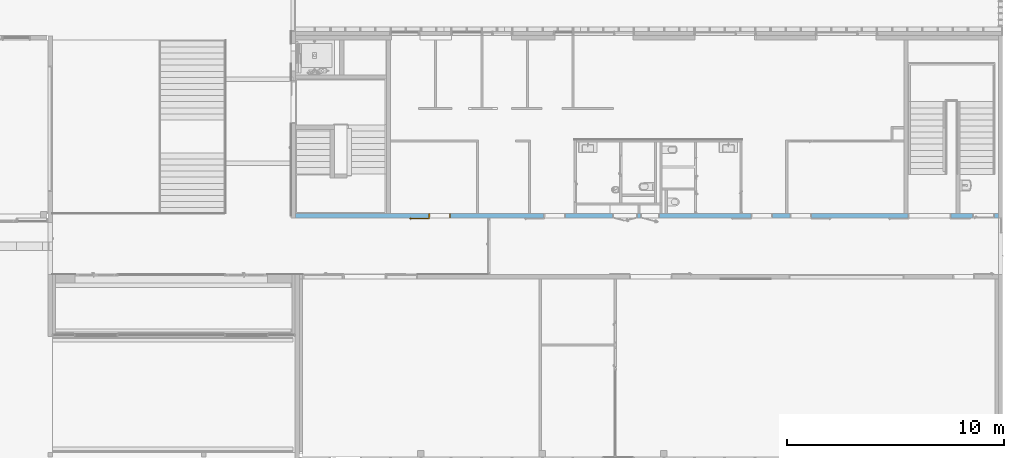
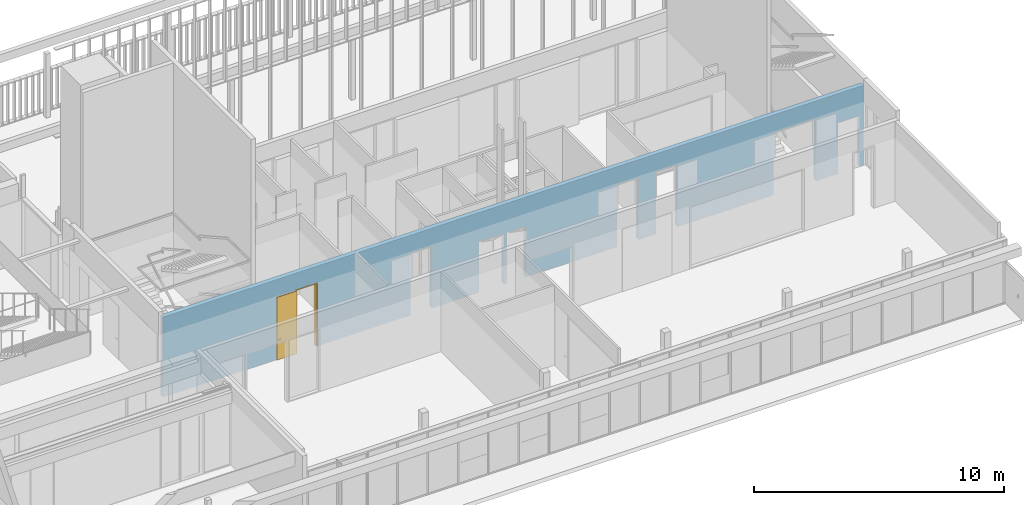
# One storey, part 225 of 240: 1 door, 8 openings, plus 1 element that does not belong to this part.
"""IFC2X3 building model written with IfcOpenShell, lengths in centimetres."""

from ifc_helpers import new_model, entity, si_unit, converted_unit, derived_unit, direction, frame, frame_2d, origin, place, context, subcontext, project, spatial, polyline, rectangle, extrude, clip, bounded_halfspace, faceted_brep, source, transform, mapped, material, material_list, layer, layer_set, layer_usage, type_object, type_shapes, element, fill, save


model = new_model("IFC2X3")

# Units and contexts
model_context = context("Model", 3, precision=0.001, world=origin(), true_north=direction((6.12303176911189e-17, 1.0)))
body_context = subcontext(model_context, "Body", "Model", "MODEL_VIEW")
ifc_project = project(units=[si_unit("LENGTHUNIT", "METRE", prefix="CENTI"), si_unit("AREAUNIT", "SQUARE_METRE"), si_unit("VOLUMEUNIT", "CUBIC_METRE"), converted_unit("PLANEANGLEUNIT", "DEGREE", entity("IfcRatioMeasure", 0.0174532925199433), si_unit("PLANEANGLEUNIT", "RADIAN"), dimensions=[0, 0, 0, 0, 0, 0, 0]), si_unit("MASSUNIT", "GRAM", prefix="KILO"), derived_unit("MASSDENSITYUNIT", [(si_unit("MASSUNIT", "GRAM", prefix="KILO"), 1), (si_unit("LENGTHUNIT", "METRE"), -3)]), si_unit("TIMEUNIT", "SECOND"), si_unit("FREQUENCYUNIT", "HERTZ"), si_unit("THERMODYNAMICTEMPERATUREUNIT", "DEGREE_CELSIUS"), derived_unit("THERMALTRANSMITTANCEUNIT", [(si_unit("MASSUNIT", "GRAM", prefix="KILO"), 1), (si_unit("THERMODYNAMICTEMPERATUREUNIT", "KELVIN"), -1), (si_unit("TIMEUNIT", "SECOND"), -3)]), derived_unit("VOLUMETRICFLOWRATEUNIT", [(si_unit("LENGTHUNIT", "METRE"), 3), (si_unit("TIMEUNIT", "SECOND"), -1)]), si_unit("ELECTRICCURRENTUNIT", "AMPERE"), si_unit("ELECTRICVOLTAGEUNIT", "VOLT"), si_unit("POWERUNIT", "WATT"), si_unit("FORCEUNIT", "NEWTON", prefix="KILO"), si_unit("ILLUMINANCEUNIT", "LUX"), si_unit("LUMINOUSFLUXUNIT", "LUMEN"), si_unit("LUMINOUSINTENSITYUNIT", "CANDELA"), derived_unit("USERDEFINED", [(si_unit("MASSUNIT", "GRAM", prefix="KILO"), -1), (si_unit("LENGTHUNIT", "METRE"), -2), (si_unit("TIMEUNIT", "SECOND"), 3), (si_unit("LUMINOUSFLUXUNIT", "LUMEN"), 1)]), derived_unit("LINEARVELOCITYUNIT", [(si_unit("LENGTHUNIT", "METRE"), 1), (si_unit("TIMEUNIT", "SECOND"), -1)]), si_unit("PRESSUREUNIT", "PASCAL"), derived_unit("USERDEFINED", [(si_unit("LENGTHUNIT", "METRE"), -2), (si_unit("MASSUNIT", "GRAM", prefix="KILO"), 1), (si_unit("TIMEUNIT", "SECOND"), -2)])], contexts=[model_context])

# Site, building, storey
site_placement = place(None, frame((-2781.94577612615, 7442.24238424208, 0.0)))
site = spatial("IfcSite", under=ifc_project, at=site_placement, Name="Default", CompositionType="ELEMENT")
building_placement = place(site_placement, origin())
building = spatial("IfcBuilding", under=site, at=building_placement, CompositionType="ELEMENT")
storey_placement = place(building_placement, origin())
storey = spatial("IfcBuildingStorey", under=building, at=storey_placement, Name="N00 - COO", CompositionType="ELEMENT", Elevation=0.0)

# Wall, openings, door
ifc_material_1 = material(Name="01 - Maçonnerie")
ifc_layer = layer(ifc_material_1, 20.0)
ifc_layer_set = layer_set([ifc_layer], Name="Mur de base:04 - Structure - béton - 20cm")
ifc_layer_usage = layer_usage(ifc_layer_set, "AXIS2", "NEGATIVE", 10.0)
wall_type = type_object("IfcWallType", Name="Mur de base:04 - Structure - béton - 20cm", PredefinedType="STANDARD", material=ifc_layer_set)
wall_placement = place(building_placement, frame((-3647.99987968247, -1920.07903364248, 0.0)))
wall = element("IfcWallStandardCase", 1, at=wall_placement, inside=storey, type_object=wall_type, material=ifc_layer_usage, Name="Mur de base:04 - Structure - béton - 20cm", ObjectType="Mur de base:04 - Structure - béton - 20cm", context=body_context, shape_type="Clipping", body=[
    clip(extrude(rectangle(XDim=3237.99999684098, YDim=19.9999999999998, at=frame_2d((1618.99999842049, -2.66453525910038e-15), x_axis=(-1.0, 0.0))), origin(), (0.0, 0.0, 1.0), 391.0), bounded_halfspace(frame((0.0, -10.0, 391.0), z_axis=(0.0, 0.0, -1.0), x_axis=(0.0, 1.0, 0.0)), True, frame((0.0, -10.0, 391.0)), polyline([(0.0, 0.0), (3238.0, 0.0), (3238.0, 20.0), (3062.69999684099, 20.0), (3042.69999684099, 20.0), (2268.49999684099, 20.0), (2258.49999684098, 20.0), (2058.49999684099, 20.0), (2048.49999684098, 20.0), (1848.49999684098, 20.0), (1838.49999684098, 20.0), (1713.49999684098, 20.0), (1703.49999684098, 20.0), (1293.99999684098, 20.0), (1283.99999684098, 20.0), (1083.99999684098, 20.0), (1073.99999684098, 20.0), (843.999996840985, 20.0), (833.999996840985, 20.0), (438.699996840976, 20.0), (0.0, 20.0), (0.0, 0.0)]))),
])
opening_1_placement = place(wall_placement, frame((3019.69999684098, 10.0, 0.0)))
element("IfcOpeningElement", 2, at=opening_1_placement, cuts=wall, Name="Int. Double:PP (1.90m x 3.00m):1", ObjectType="Opening", context=body_context, shape_type="SweptSolid", body=[
    extrude(rectangle(XDim=304.500000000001, YDim=197.0, at=frame_2d((152.250000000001, 98.5), x_axis=(1.0, 0.0))), frame((0.0, 0.0, 0.0), z_axis=(0.0, -1.0, 0.0), x_axis=(0.0, 0.0, 1.0)), (0.0, 0.0, 1.0), 20.0),
])
opening_2_placement = place(wall_placement, frame((1243.99999684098, 10.0, 0.0)))
element("IfcOpeningElement", 3, at=opening_2_placement, cuts=wall, Name="Int. Simple:PV (0.93m x 3.00m):1", ObjectType="Opening", context=body_context, shape_type="SweptSolid", body=[
    extrude(rectangle(XDim=304.500000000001, YDim=99.9999999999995, at=frame_2d((152.250000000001, 49.9999999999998), x_axis=(1.0, 0.0))), frame((0.0, 0.0, 0.0), z_axis=(0.0, -1.0, 0.0), x_axis=(0.0, 0.0, 1.0)), (0.0, 0.0, 1.0), 20.0),
])
opening_3_placement = place(wall_placement, frame((2198.49999684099, 10.0, 0.0)))
element("IfcOpeningElement", 4, at=opening_3_placement, cuts=wall, Name="Int. Simple:PV (0.93m x 3.00m):1", ObjectType="Opening", context=body_context, shape_type="SweptSolid", body=[
    extrude(rectangle(XDim=304.500000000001, YDim=99.9999999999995, at=frame_2d((152.250000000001, 49.9999999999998), x_axis=(1.0, 0.0))), frame((0.0, 0.0, 0.0), z_axis=(0.0, -1.0, 0.0), x_axis=(0.0, 0.0, 1.0)), (0.0, 0.0, 1.0), 20.0),
])
opening_4_placement = place(wall_placement, frame((713.999996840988, 10.0, 0.0)))
opening_4 = element("IfcOpeningElement", 5, at=opening_4_placement, cuts=wall, Name="Int. Simple:PP (0.93m x 3.06m):1", ObjectType="Opening", context=body_context, shape_type="SweptSolid", body=[
    extrude(rectangle(XDim=309.500000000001, YDim=99.9999999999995, at=frame_2d((154.750000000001, 49.9999999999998), x_axis=(1.0, 0.0))), frame((0.0, 0.0, 0.0), z_axis=(0.0, -1.0, 0.0), x_axis=(0.0, 0.0, 1.0)), (0.0, 0.0, 1.0), 20.0),
])
opening_5_placement = place(wall_placement, frame((1576.99999684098, 10.0, 0.0)))
element("IfcOpeningElement", 6, at=opening_5_placement, cuts=wall, Name="Int. Double:PP Placard (1.10m x 2.50m):1", ObjectType="Opening", context=body_context, shape_type="SweptSolid", body=[
    extrude(rectangle(XDim=248.500000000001, YDim=117.0, at=frame_2d((124.250000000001, 58.5000000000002), x_axis=(1.0, 0.0))), frame((0.0, 0.0, 0.0), z_axis=(0.0, -1.0, 0.0), x_axis=(0.0, 0.0, 1.0)), (0.0, 0.0, 1.0), 20.0),
])
opening_6_placement = place(wall_placement, frame((1677.0, 10.0, 0.0)))
element("IfcOpeningElement", 7, at=opening_6_placement, cuts=wall, Name="Int. Simple:PP Placard (0.80m x 2.50m):1", ObjectType="Opening", context=body_context, shape_type="SweptSolid", body=[
    extrude(rectangle(XDim=248.500000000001, YDim=86.9999999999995, at=frame_2d((124.250000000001, 43.4999999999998), x_axis=(1.0, 0.0))), frame((0.0, 0.0, 0.0), z_axis=(0.0, -1.0, 0.0), x_axis=(0.0, 0.0, 1.0)), (0.0, 0.0, 1.0), 20.0),
])
opening_7_placement = place(wall_placement, frame((2378.49999684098, 10.0, 0.0)))
element("IfcOpeningElement", 8, at=opening_7_placement, cuts=wall, Name="Int. Simple:PV (0.93m x 3.00m):1", ObjectType="Opening", context=body_context, shape_type="SweptSolid", body=[
    extrude(rectangle(XDim=304.500000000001, YDim=99.9999999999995, at=frame_2d((152.250000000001, 49.9999999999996), x_axis=(1.0, 0.0))), frame((0.0, 0.0, 0.0), z_axis=(0.0, -1.0, 0.0), x_axis=(0.0, 0.0, 1.0)), (0.0, 0.0, 1.0), 20.0),
])
opening_8_placement = place(wall_placement, frame((3220.0, 10.0, 0.0)))
element("IfcOpeningElement", 9, at=opening_8_placement, cuts=wall, Name="Int. Simple:PP simple (0.93m x 2.50m):1", ObjectType="Opening", context=body_context, shape_type="SweptSolid", body=[
    extrude(rectangle(XDim=248.500000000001, YDim=99.9999999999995, at=frame_2d((124.250000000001, 49.9999999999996), x_axis=(1.0, 0.0))), frame((0.0, 0.0, 0.0), z_axis=(0.0, -1.0, 0.0), x_axis=(0.0, 0.0, 1.0)), (0.0, 0.0, 1.0), 20.0),
])
ifc_material_2 = material(Name="Finition Peinture - Blanc satiné")
ifc_material_3 = material(Name="Bois - Panneau de porte")
ifc_material_4 = material(Name="Bois - Cadre de porte")
ifc_material_list_1 = material_list([ifc_material_2, ifc_material_3, ifc_material_4])
ifc_material_list_2 = material_list([ifc_material_2, ifc_material_3, ifc_material_4])
door_style = type_object("IfcDoorStyle", Name="PP (0.93m x 3.06m)", ConstructionType="NOTDEFINED", OperationType="SINGLE_SWING_RIGHT", ParameterTakesPrecedence=False, Sizeable=False, material=ifc_material_list_2)
shared_shape = source(origin(), body_context, "Body", "Brep", [
    faceted_brep([(-78.4999999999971, 0.499999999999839, 87.0), (-78.4999999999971, 0.499999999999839, 108.0), (-77.5352761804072, 0.499999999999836, 108.399601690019), (-76.4999999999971, 0.49999999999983, 108.535898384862), (-75.4647238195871, 0.499999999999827, 108.399601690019), (-74.4999999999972, 0.499999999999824, 108.0), (-74.499999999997, 0.499999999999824, 87.0), (-75.4647238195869, 0.499999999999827, 86.6003983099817), (-76.499999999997, 0.49999999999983, 86.464101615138), (-77.5352761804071, 0.499999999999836, 86.6003983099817), (-78.4999999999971, 0.0, 108.0), (-78.499999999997, 0.0, 87.0), (-77.5352761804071, 0.0, 86.6003983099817), (-76.499999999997, 0.0, 86.464101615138), (-75.464723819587, 0.0, 86.6003983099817), (-74.4999999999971, 0.0, 87.0), (-74.4999999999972, 0.0, 108.0), (-75.4647238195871, 0.0, 108.399601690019), (-76.4999999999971, 0.0, 108.535898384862), (-77.5352761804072, 0.0, 108.399601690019)], [[[0, 1, 2, 3, 4, 5, 6, 7, 8, 9]], [[10, 11, 12, 13, 14, 15, 16, 17, 18, 19]], [[9, 12, 11, 0]], [[8, 13, 12, 9]], [[7, 14, 13, 8]], [[7, 6, 15, 14]], [[15, 6, 5, 16]], [[4, 17, 16, 5]], [[3, 18, 17, 4]], [[2, 19, 18, 3]], [[2, 1, 10, 19]], [[11, 10, 1, 0]]]),
    faceted_brep([(-78.4999999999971, -4.0, 87.0), (-78.4999999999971, -4.0, 108.0), (-77.5352761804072, -4.0, 108.399601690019), (-76.4999999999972, -4.0, 108.535898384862), (-75.4647238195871, -4.0, 108.399601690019), (-74.4999999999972, -4.0, 108.0), (-74.4999999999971, -4.0, 87.0), (-75.464723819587, -4.0, 86.6003983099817), (-76.499999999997, -4.0, 86.464101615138), (-77.5352761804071, -4.0, 86.6003983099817), (-76.4999999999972, -4.50000000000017, 108.535898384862), (-77.5352761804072, -4.50000000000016, 108.399601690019), (-78.4999999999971, -4.50000000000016, 108.0), (-78.499999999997, -4.50000000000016, 87.0), (-77.5352761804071, -4.50000000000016, 86.6003983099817), (-76.499999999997, -4.50000000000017, 86.464101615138), (-75.464723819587, -4.50000000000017, 86.6003983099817), (-74.4999999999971, -4.50000000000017, 87.0), (-74.4999999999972, -4.50000000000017, 108.0), (-75.4647238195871, -4.50000000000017, 108.399601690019)], [[[0, 1, 2, 3, 4, 5, 6, 7, 8, 9]], [[10, 11, 12, 13, 14, 15, 16, 17, 18, 19]], [[4, 19, 18, 5]], [[3, 10, 19, 4]], [[2, 11, 10, 3]], [[2, 1, 12, 11]], [[13, 12, 1, 0]], [[9, 14, 13, 0]], [[8, 15, 14, 9]], [[7, 16, 15, 8]], [[7, 6, 17, 16]], [[17, 6, 5, 18]]]),
    faceted_brep([(-76.2974701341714, 0.499999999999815, 100.778044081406), (-76.7025298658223, 0.499999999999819, 100.778044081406), (-77.0999999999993, 0.499999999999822, 100.699999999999), (-77.1000000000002, 0.499999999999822, 99.2999999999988), (-76.7025298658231, 0.499999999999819, 99.221955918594), (-76.2974701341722, 0.499999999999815, 99.2219559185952), (-75.8999999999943, 0.499999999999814, 99.3000000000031), (-75.8999999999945, 0.499999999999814, 100.7), (-76.7025298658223, 3.10045754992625, 100.778044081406), (-77.0999999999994, 3.26509507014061, 100.7), (-76.2974701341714, 2.93267631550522, 100.778044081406), (-74.929860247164, 4.30028620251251, 100.778044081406), (-75.097641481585, 4.70534593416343, 100.778044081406), (-75.8999999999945, 2.76803879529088, 100.7), (-75.8999999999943, 2.76803879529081, 99.3000000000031), (-76.2974701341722, 2.93267631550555, 99.2219559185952), (-76.7025298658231, 3.10045754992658, 99.221955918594), (-75.0976414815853, 4.70534593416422, 99.221955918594), (-74.9298602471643, 4.3002862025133, 99.2219559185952), (-77.1000000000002, 3.26509507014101, 99.2999999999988), (-75.2622790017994, 5.10281606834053, 100.7), (-74.7652227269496, 3.9028160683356, 100.7), (-74.7652227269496, 3.90281606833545, 99.3000000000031), (-75.2622790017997, 5.10281606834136, 99.2999999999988), (-66.4981359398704, 5.10281606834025, 100.7), (-66.4981359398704, 4.70534593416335, 100.778044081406), (-66.4981359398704, 4.30028620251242, 100.778044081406), (-66.4981359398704, 3.90281606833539, 100.699999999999), (-66.4981359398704, 3.90281606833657, 99.3000000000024), (-66.4981359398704, 4.30028620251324, 99.2219559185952), (-66.4981359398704, 4.70534593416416, 99.221955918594), (-66.4981359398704, 5.10281606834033, 99.2999999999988), (-70.7139980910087, 4.50281606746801, 100.78786867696), (-71.2692302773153, 5.10281606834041, 100.7), (-70.63167933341, 3.90281606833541, 100.7), (-70.6316793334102, 3.9028160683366, 99.3000000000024), (-70.7139981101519, 4.50281607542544, 99.2121313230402), (-71.2692310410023, 5.10281606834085, 99.2999999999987)], [[[0, 1, 2, 3, 4, 5, 6, 7]], [[2, 1, 8, 9]], [[1, 0, 10, 11, 12, 8]], [[0, 7, 13, 10]], [[14, 13, 7, 6]], [[5, 15, 14, 6]], [[5, 4, 16, 17, 18, 15]], [[3, 19, 16, 4]], [[9, 19, 3, 2]], [[9, 8, 12, 20]], [[10, 13, 21, 11]], [[22, 21, 13, 14]], [[14, 15, 18, 22]], [[16, 19, 23, 17]], [[20, 23, 19, 9]], [[24, 25, 26, 27, 28, 29, 30, 31]], [[32, 25, 33]], [[33, 25, 24]], [[33, 20, 12]], [[11, 34, 32]], [[34, 11, 21]], [[27, 26, 34]], [[32, 26, 25]], [[32, 34, 26]], [[32, 33, 12]], [[11, 32, 12]], [[21, 22, 35, 28, 27, 34]], [[36, 29, 35]], [[30, 36, 37]], [[18, 35, 22]], [[29, 28, 35]], [[30, 37, 31]], [[37, 17, 23]], [[36, 17, 37]], [[36, 18, 17]], [[36, 35, 18]], [[29, 36, 30]], [[23, 20, 33, 24, 31, 37]]]),
    faceted_brep([(-76.2974701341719, -4.50000000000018, 99.2219559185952), (-76.7025298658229, -4.50000000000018, 99.221955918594), (-77.099999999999, -4.50000000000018, 99.2999999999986), (-77.0999999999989, -4.50000000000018, 100.7), (-76.702529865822, -4.50000000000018, 100.778044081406), (-76.2974701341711, -4.50000000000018, 100.778044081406), (-75.8999999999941, -4.50000000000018, 100.7), (-75.8999999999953, -4.50000000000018, 99.3000000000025), (-75.8999999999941, -6.74852045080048, 100.7), (-75.8999999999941, -6.74852045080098, 99.3000000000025), (-76.2974701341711, -6.91315797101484, 100.778044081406), (-76.702529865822, -7.08093920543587, 100.778044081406), (-75.0838906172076, -8.69957845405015, 100.778044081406), (-74.9161093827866, -8.29451872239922, 100.778044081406), (-77.0999999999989, -7.2455767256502, 100.7), (-77.099999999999, -7.24557672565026, 99.2999999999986), (-76.7025298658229, -7.08093920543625, 99.221955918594), (-76.297470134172, -6.91315797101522, 99.2219559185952), (-74.916109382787, -8.29451872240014, 99.2219559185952), (-75.083890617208, -8.69957845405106, 99.221955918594), (-74.7514718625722, -7.89704858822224, 100.7), (-74.7514718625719, -7.8970485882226, 99.3000000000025), (-75.2485281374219, -9.09704858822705, 100.7), (-75.248528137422, -9.09704858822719, 99.2999999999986), (-66.4954216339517, -8.29451872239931, 100.778044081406), (-66.4954216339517, -8.69957845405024, 100.778044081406), (-66.4954216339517, -9.09704858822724, 100.7), (-66.4954216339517, -9.09704858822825, 99.2999999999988), (-66.4954216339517, -8.69957845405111, 99.221955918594), (-66.4954216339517, -8.29451872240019, 99.2219559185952), (-66.4954216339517, -7.8970485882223, 99.3000000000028), (-66.4954216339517, -7.89704858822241, 100.7), (-70.623446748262, -7.89704858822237, 100.7), (-70.6234479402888, -7.89704858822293, 99.3000000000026), (-70.7057655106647, -8.49704858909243, 100.78786867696), (-71.2554794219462, -9.09704858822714, 100.7), (-71.2554795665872, -9.09704858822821, 99.2999999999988), (-70.7057654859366, -8.49704858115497, 99.2121313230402)], [[[0, 1, 2, 3, 4, 5, 6, 7]], [[8, 9, 7, 6]], [[5, 10, 8, 6]], [[5, 4, 11, 12, 13, 10]], [[3, 14, 11, 4]], [[14, 3, 2, 15]], [[2, 1, 16, 15]], [[1, 0, 17, 18, 19, 16]], [[0, 7, 9, 17]], [[20, 21, 9, 8]], [[8, 10, 13, 20]], [[14, 22, 12, 11]], [[23, 22, 14, 15]], [[15, 16, 19, 23]], [[17, 9, 21, 18]], [[24, 25, 26, 27, 28, 29, 30, 31]], [[21, 20, 32, 31, 30, 33]], [[34, 24, 32]], [[25, 34, 35]], [[13, 32, 20]], [[24, 31, 32]], [[25, 35, 26]], [[35, 12, 22]], [[34, 12, 35]], [[34, 13, 12]], [[34, 32, 13]], [[24, 34, 25]], [[22, 23, 36, 27, 26, 35]], [[37, 28, 36]], [[36, 28, 27]], [[36, 23, 19]], [[18, 33, 37]], [[33, 18, 21]], [[30, 29, 33]], [[37, 29, 28]], [[37, 33, 29]], [[37, 36, 19]], [[18, 37, 19]]]),
    faceted_brep([(-82.4999999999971, -4.0, 306.0), (-82.4999999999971, -4.0, 0.0), (10.5000000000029, -4.0, 0.0), (10.5000000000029, -4.0, 306.0), (-82.4999999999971, 0.0, 306.0), (10.5000000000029, 0.0, 306.0), (10.5000000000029, 0.0, 0.0), (-82.4999999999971, 0.0, 0.0)], [[[0, 1, 2, 3]], [[4, 5, 6, 7]], [[3, 5, 4, 0]], [[2, 6, 5, 3]], [[1, 7, 6, 2]], [[0, 4, 7, 1]]]),
    faceted_brep([(107.0, 20.0, 0.0), (107.0, 0.0, 0.0), (108.500000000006, 0.0, 0.0), (108.500000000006, -0.500000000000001, 0.0), (103.500000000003, -0.500000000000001, 0.0), (103.500000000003, 4.0, 0.0), (102.0, 4.0, 0.0), (102.0, 20.5000000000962, 0.0), (108.500000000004, 20.5000000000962, 0.0), (108.500000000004, 20.0, 0.0), (108.500000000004, 20.0, 311.0), (5.50000000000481, 20.0, 311.0), (5.50000000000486, 20.0, 0.0), (7.0, 20.0, 0.0), (7.0, 20.0, 309.500000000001), (107.0, 20.0, 309.500000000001), (108.500000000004, 20.5000000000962, 311.0), (102.0, 20.5000000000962, 304.5), (12.0, 20.5000000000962, 304.5), (12.0, 20.5000000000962, 0.0), (5.50000000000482, 20.5000000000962, 0.0), (5.50000000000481, 20.5000000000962, 311.0), (102.0, 4.0, 304.5), (103.500000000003, 4.0, 306.0), (10.5000000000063, 4.0, 306.0), (10.5000000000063, 4.0, 0.0), (12.0, 4.0, 0.0), (12.0, 4.0, 304.5), (103.500000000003, -0.500000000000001, 306.0), (108.500000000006, -0.500000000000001, 311.0), (5.5000000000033, -0.500000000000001, 311.0), (5.50000000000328, -0.500000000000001, 0.0), (10.5000000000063, -0.500000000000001, 0.0), (10.5000000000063, -0.500000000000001, 306.0), (108.500000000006, 0.0, 311.0), (107.0, 0.0, 309.500000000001), (7.0, 0.0, 309.500000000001), (7.0, 0.0, 0.0), (5.5000000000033, 0.0, 0.0), (5.50000000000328, 0.0, 311.0)], [[[0, 1, 2, 3, 4, 5, 6, 7, 8, 9]], [[9, 10, 11, 12, 13, 14, 15, 0]], [[8, 16, 10, 9]], [[7, 17, 18, 19, 20, 21, 16, 8]], [[7, 6, 22, 17]], [[5, 23, 24, 25, 26, 27, 22, 6]], [[5, 4, 28, 23]], [[3, 29, 30, 31, 32, 33, 28, 4]], [[2, 34, 29, 3]], [[1, 35, 36, 37, 38, 39, 34, 2]], [[0, 15, 35, 1]], [[14, 13, 37, 36]], [[13, 12, 20, 19, 26, 25, 32, 31, 38, 37]], [[21, 20, 12, 11]], [[27, 26, 19, 18]], [[33, 32, 25, 24]], [[39, 38, 31, 30]], [[16, 21, 11, 10]], [[22, 27, 18, 17]], [[28, 33, 24, 23]], [[34, 39, 30, 29]], [[15, 14, 36, 35]]]),
])
type_shapes(door_style, [shared_shape])
door_placement = place(opening_4_placement, frame((-107.0, -20.0, 0.0)))
door = element("IfcDoor", 10, at=door_placement, inside=storey, type_object=door_style, material=ifc_material_list_1, Name="Int. Simple:PP (0.93m x 3.06m)", ObjectType="Int. Simple:PP (0.93m x 3.06m)", OverallHeight=309.500000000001, OverallWidth=99.9999999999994, context=body_context, shape_type="MappedRepresentation", body=[
    mapped(shared_shape, transform((0.0, 0.0, 0.0), scale=1.0)),
])
fill(opening_4, door)

save(model, "model.ifc")
